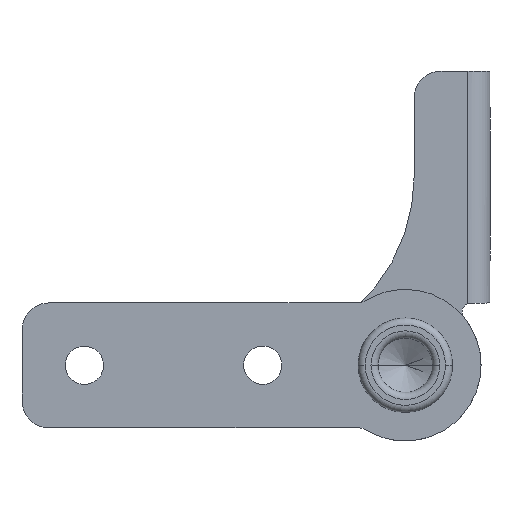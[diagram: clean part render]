
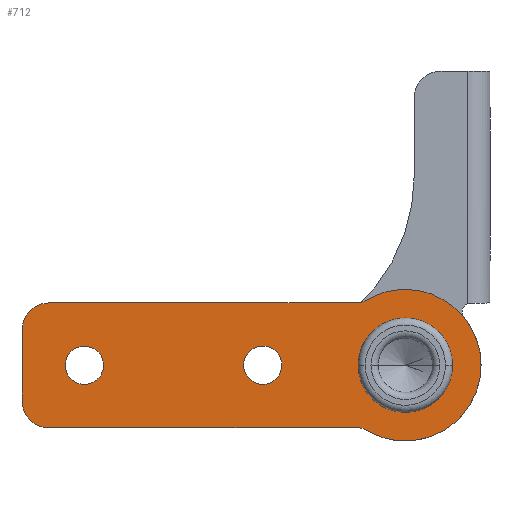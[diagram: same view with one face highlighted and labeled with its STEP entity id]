
A CAD part, left-side view. The second image highlights one B-rep face of the part: STEP entity #712.
In plain terms, the highlighted planar face has unit normal (-1, 0, 0).
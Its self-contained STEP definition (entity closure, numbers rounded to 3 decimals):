
#221 = VERTEX_POINT ( 'NONE', #1939 ) ;
#222 = VERTEX_POINT ( 'NONE', #1940 ) ;
#227 = VERTEX_POINT ( 'NONE', #1945 ) ;
#228 = VERTEX_POINT ( 'NONE', #1946 ) ;
#231 = VERTEX_POINT ( 'NONE', #1949 ) ;
#232 = VERTEX_POINT ( 'NONE', #1950 ) ;
#235 = VERTEX_POINT ( 'NONE', #1953 ) ;
#236 = VERTEX_POINT ( 'NONE', #1954 ) ;
#238 = VERTEX_POINT ( 'NONE', #1956 ) ;
#246 = VERTEX_POINT ( 'NONE', #1964 ) ;
#247 = VERTEX_POINT ( 'NONE', #1965 ) ;
#248 = VERTEX_POINT ( 'NONE', #1966 ) ;
#249 = VERTEX_POINT ( 'NONE', #1967 ) ;
#250 = VERTEX_POINT ( 'NONE', #1968 ) ;
#251 = VERTEX_POINT ( 'NONE', #1969 ) ;
#252 = VERTEX_POINT ( 'NONE', #1970 ) ;
#334 = EDGE_LOOP ( 'NONE', ( #1379, #1384 ) ) ;
#335 = EDGE_LOOP ( 'NONE', ( #1382, #1385 ) ) ;
#336 = EDGE_LOOP ( 'NONE', ( #1383, #1387, #1386, #1388, #1389, #1390, #1391, #1392, #1394, #1393 ) ) ;
#337 = EDGE_LOOP ( 'NONE', ( #1397, #1395 ) ) ;
#689 = EDGE_CURVE ( 'NONE', #221, #222, #1064, .T. ) ;
#696 = EDGE_CURVE ( 'NONE', #227, #228, #1074, .T. ) ;
#700 = EDGE_CURVE ( 'NONE', #232, #231, #1076, .T. ) ;
#712 = ADVANCED_FACE ( 'NONE', ( #1531, #1532, #1533, #1534 ), #2371, .F. ) ;
#778 = EDGE_CURVE ( 'NONE', #235, #236, #1171, .T. ) ;
#782 = EDGE_CURVE ( 'NONE', #238, #235, #1177, .T. ) ;
#794 = EDGE_CURVE ( 'NONE', #222, #221, #1190, .T. ) ;
#795 = EDGE_CURVE ( 'NONE', #228, #227, #1193, .T. ) ;
#796 = EDGE_CURVE ( 'NONE', #248, #246, #1655, .T. ) ;
#797 = EDGE_CURVE ( 'NONE', #246, #247, #1201, .T. ) ;
#798 = EDGE_CURVE ( 'NONE', #249, #248, #1204, .T. ) ;
#799 = EDGE_CURVE ( 'NONE', #250, #249, #1656, .T. ) ;
#800 = EDGE_CURVE ( 'NONE', #251, #250, #1206, .T. ) ;
#801 = EDGE_CURVE ( 'NONE', #252, #251, #1657, .T. ) ;
#802 = EDGE_CURVE ( 'NONE', #236, #252, #1210, .T. ) ;
#803 = EDGE_CURVE ( 'NONE', #247, #238, #1199, .T. ) ;
#804 = EDGE_CURVE ( 'NONE', #231, #232, #1215, .T. ) ;
#1064 = CIRCLE ( 'NONE', #1067, 2.15 ) ;
#1067 = AXIS2_PLACEMENT_3D ( 'NONE', #2309, #2310, #2311 ) ;
#1074 = CIRCLE ( 'NONE', #1078, 2.15 ) ;
#1076 = CIRCLE ( 'NONE', #1085, 4. ) ;
#1078 = AXIS2_PLACEMENT_3D ( 'NONE', #2326, #2327, #2328 ) ;
#1085 = AXIS2_PLACEMENT_3D ( 'NONE', #2336, #2337, #2338 ) ;
#1101 = AXIS2_PLACEMENT_3D ( 'NONE', #2372, #2373, #2374 ) ;
#1171 = CIRCLE ( 'NONE', #1173, 8.5 ) ;
#1173 = AXIS2_PLACEMENT_3D ( 'NONE', #2628, #2629, #2630 ) ;
#1177 = CIRCLE ( 'NONE', #1179, 8.5 ) ;
#1179 = AXIS2_PLACEMENT_3D ( 'NONE', #2638, #2639, #2640 ) ;
#1190 = CIRCLE ( 'NONE', #1198, 2.15 ) ;
#1193 = CIRCLE ( 'NONE', #1200, 2.15 ) ;
#1198 = AXIS2_PLACEMENT_3D ( 'NONE', #2671, #2672, #2673 ) ;
#1199 = CIRCLE ( 'NONE', #1214, 8.5 ) ;
#1200 = AXIS2_PLACEMENT_3D ( 'NONE', #2674, #2675, #2676 ) ;
#1201 = CIRCLE ( 'NONE', #1203, 2. ) ;
#1202 = VECTOR ( 'NONE', #2678, 1000. ) ;
#1203 = AXIS2_PLACEMENT_3D ( 'NONE', #2679, #2680, #2681 ) ;
#1204 = CIRCLE ( 'NONE', #1205, 3. ) ;
#1205 = AXIS2_PLACEMENT_3D ( 'NONE', #2682, #2683, #2684 ) ;
#1206 = CIRCLE ( 'NONE', #1208, 3. ) ;
#1207 = VECTOR ( 'NONE', #2686, 1000. ) ;
#1208 = AXIS2_PLACEMENT_3D ( 'NONE', #2687, #2688, #2689 ) ;
#1210 = CIRCLE ( 'NONE', #1212, 2. ) ;
#1211 = VECTOR ( 'NONE', #2691, 1000. ) ;
#1212 = AXIS2_PLACEMENT_3D ( 'NONE', #2692, #2693, #2694 ) ;
#1214 = AXIS2_PLACEMENT_3D ( 'NONE', #2695, #2696, #2697 ) ;
#1215 = CIRCLE ( 'NONE', #1216, 4. ) ;
#1216 = AXIS2_PLACEMENT_3D ( 'NONE', #2698, #2699, #2700 ) ;
#1379 = ORIENTED_EDGE ( 'NONE', *, *, #794, .T. ) ;
#1382 = ORIENTED_EDGE ( 'NONE', *, *, #795, .T. ) ;
#1383 = ORIENTED_EDGE ( 'NONE', *, *, #797, .F. ) ;
#1384 = ORIENTED_EDGE ( 'NONE', *, *, #689, .T. ) ;
#1385 = ORIENTED_EDGE ( 'NONE', *, *, #696, .T. ) ;
#1386 = ORIENTED_EDGE ( 'NONE', *, *, #798, .F. ) ;
#1387 = ORIENTED_EDGE ( 'NONE', *, *, #796, .F. ) ;
#1388 = ORIENTED_EDGE ( 'NONE', *, *, #799, .F. ) ;
#1389 = ORIENTED_EDGE ( 'NONE', *, *, #800, .F. ) ;
#1390 = ORIENTED_EDGE ( 'NONE', *, *, #801, .F. ) ;
#1391 = ORIENTED_EDGE ( 'NONE', *, *, #802, .F. ) ;
#1392 = ORIENTED_EDGE ( 'NONE', *, *, #778, .F. ) ;
#1393 = ORIENTED_EDGE ( 'NONE', *, *, #803, .F. ) ;
#1394 = ORIENTED_EDGE ( 'NONE', *, *, #782, .F. ) ;
#1395 = ORIENTED_EDGE ( 'NONE', *, *, #804, .T. ) ;
#1397 = ORIENTED_EDGE ( 'NONE', *, *, #700, .T. ) ;
#1531 = FACE_BOUND ( 'NONE', #334, .T. ) ;
#1532 = FACE_BOUND ( 'NONE', #335, .T. ) ;
#1533 = FACE_OUTER_BOUND ( 'NONE', #336, .T. ) ;
#1534 = FACE_BOUND ( 'NONE', #337, .T. ) ;
#1655 = LINE ( 'NONE', #2677, #1202 ) ;
#1656 = LINE ( 'NONE', #2685, #1207 ) ;
#1657 = LINE ( 'NONE', #2690, #1211 ) ;
#1939 = CARTESIAN_POINT ( 'NONE',  ( 0., 36., 2.15 ) ) ;
#1940 = CARTESIAN_POINT ( 'NONE',  ( 0., 36., -2.15 ) ) ;
#1945 = CARTESIAN_POINT ( 'NONE',  ( 0., 16., 2.15 ) ) ;
#1946 = CARTESIAN_POINT ( 'NONE',  ( 0., 16., -2.15 ) ) ;
#1949 = CARTESIAN_POINT ( 'NONE',  ( 0., 0., -4. ) ) ;
#1950 = CARTESIAN_POINT ( 'NONE',  ( 0., 0., 4. ) ) ;
#1953 = CARTESIAN_POINT ( 'NONE',  ( 0., 0., -8.5 ) ) ;
#1954 = CARTESIAN_POINT ( 'NONE',  ( 0., 4.378, -7.286 ) ) ;
#1956 = CARTESIAN_POINT ( 'NONE',  ( 0., 0., 8.5 ) ) ;
#1964 = CARTESIAN_POINT ( 'NONE',  ( 0., 5.408, 7. ) ) ;
#1965 = CARTESIAN_POINT ( 'NONE',  ( 0., 4.378, 7.286 ) ) ;
#1966 = CARTESIAN_POINT ( 'NONE',  ( 0., 40., 7. ) ) ;
#1967 = CARTESIAN_POINT ( 'NONE',  ( 0., 43., 4. ) ) ;
#1968 = CARTESIAN_POINT ( 'NONE',  ( 0., 43., -4. ) ) ;
#1969 = CARTESIAN_POINT ( 'NONE',  ( 0., 40., -7. ) ) ;
#1970 = CARTESIAN_POINT ( 'NONE',  ( 0., 5.408, -7. ) ) ;
#2309 = CARTESIAN_POINT ( 'NONE',  ( 0., 36., 0. ) ) ;
#2310 = DIRECTION ( 'NONE',  ( 1., 0., 0. ) ) ;
#2311 = DIRECTION ( 'NONE',  ( 0., 0., -1. ) ) ;
#2326 = CARTESIAN_POINT ( 'NONE',  ( 0., 16., 0. ) ) ;
#2327 = DIRECTION ( 'NONE',  ( 1., 0., 0. ) ) ;
#2328 = DIRECTION ( 'NONE',  ( 0., 0., -1. ) ) ;
#2336 = CARTESIAN_POINT ( 'NONE',  ( 0., 0., 0. ) ) ;
#2337 = DIRECTION ( 'NONE',  ( 1., 0., 0. ) ) ;
#2338 = DIRECTION ( 'NONE',  ( 0., 0., -1. ) ) ;
#2371 = PLANE ( 'NONE',  #1101 ) ;
#2372 = CARTESIAN_POINT ( 'NONE',  ( 0., 5.408, 9. ) ) ;
#2373 = DIRECTION ( 'NONE',  ( 1., 0., 0. ) ) ;
#2374 = DIRECTION ( 'NONE',  ( 0., 0., -1. ) ) ;
#2628 = CARTESIAN_POINT ( 'NONE',  ( 0., 0., 0. ) ) ;
#2629 = DIRECTION ( 'NONE',  ( 1., 0., 0. ) ) ;
#2630 = DIRECTION ( 'NONE',  ( 0., 0., -1. ) ) ;
#2638 = CARTESIAN_POINT ( 'NONE',  ( 0., 0., 0. ) ) ;
#2639 = DIRECTION ( 'NONE',  ( 1., 0., 0. ) ) ;
#2640 = DIRECTION ( 'NONE',  ( 0., 0., -1. ) ) ;
#2671 = CARTESIAN_POINT ( 'NONE',  ( 0., 36., 0. ) ) ;
#2672 = DIRECTION ( 'NONE',  ( 1., 0., 0. ) ) ;
#2673 = DIRECTION ( 'NONE',  ( 0., 0., -1. ) ) ;
#2674 = CARTESIAN_POINT ( 'NONE',  ( 0., 16., 0. ) ) ;
#2675 = DIRECTION ( 'NONE',  ( 1., 0., 0. ) ) ;
#2676 = DIRECTION ( 'NONE',  ( 0., 0., -1. ) ) ;
#2677 = CARTESIAN_POINT ( 'NONE',  ( 0., 40., 7. ) ) ;
#2678 = DIRECTION ( 'NONE',  ( 0., -1., 0. ) ) ;
#2679 = CARTESIAN_POINT ( 'NONE',  ( 0., 5.408, 9. ) ) ;
#2680 = DIRECTION ( 'NONE',  ( -1., 0., 0. ) ) ;
#2681 = DIRECTION ( 'NONE',  ( 0., 0., -1. ) ) ;
#2682 = CARTESIAN_POINT ( 'NONE',  ( 0., 40., 4. ) ) ;
#2683 = DIRECTION ( 'NONE',  ( 1., 0., 0. ) ) ;
#2684 = DIRECTION ( 'NONE',  ( 0., 0., -1. ) ) ;
#2685 = CARTESIAN_POINT ( 'NONE',  ( 0., 43., 4. ) ) ;
#2686 = DIRECTION ( 'NONE',  ( 0., 0., 1. ) ) ;
#2687 = CARTESIAN_POINT ( 'NONE',  ( 0., 40., -4. ) ) ;
#2688 = DIRECTION ( 'NONE',  ( 1., 0., 0. ) ) ;
#2689 = DIRECTION ( 'NONE',  ( 0., 0., 1. ) ) ;
#2690 = CARTESIAN_POINT ( 'NONE',  ( 0., 40., -7. ) ) ;
#2691 = DIRECTION ( 'NONE',  ( 0., 1., 0. ) ) ;
#2692 = CARTESIAN_POINT ( 'NONE',  ( 0., 5.408, -9. ) ) ;
#2693 = DIRECTION ( 'NONE',  ( -1., 0., 0. ) ) ;
#2694 = DIRECTION ( 'NONE',  ( 0., 0., -1. ) ) ;
#2695 = CARTESIAN_POINT ( 'NONE',  ( 0., 0., 0. ) ) ;
#2696 = DIRECTION ( 'NONE',  ( 1., 0., 0. ) ) ;
#2697 = DIRECTION ( 'NONE',  ( 0., 0., -1. ) ) ;
#2698 = CARTESIAN_POINT ( 'NONE',  ( 0., 0., 0. ) ) ;
#2699 = DIRECTION ( 'NONE',  ( 1., 0., 0. ) ) ;
#2700 = DIRECTION ( 'NONE',  ( 0., 0., -1. ) ) ;
